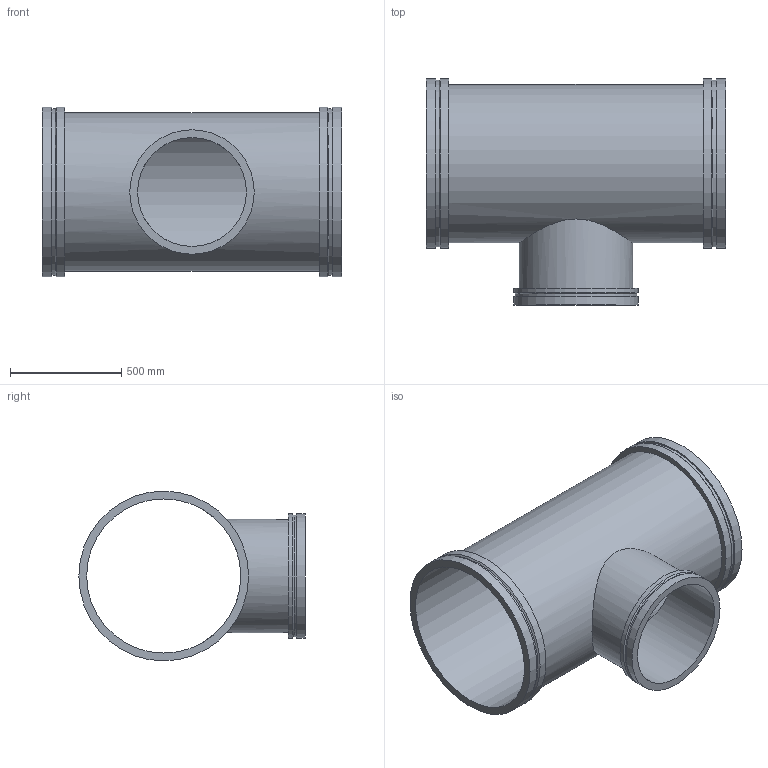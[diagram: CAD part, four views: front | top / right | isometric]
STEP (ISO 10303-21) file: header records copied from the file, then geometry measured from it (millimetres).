
FILE_DESCRIPTION(/* description */ ('VIC REDUCING TEE No W025 VR','CAx-IF Rec.Pracs.---Representation and Presentation of Product Manufacturing Information (PMI)---4.0---2014-10-13'),/* implementation_level */ '2;1');
FILE_NAME(/* name */ 'C:\Users\kkamble\AppData\Roaming\Autodesk\ApplicationPlugins\Back Up\Victaulic_Vic-Ring_Tee Reducing_No W25 VR (AGR)\Victaulic_Vic-Ring_Tee Reducing_No W25 VR (AGR)_28.0x20.0 (700x500).stp',/* time_stamp */ '2020-09-10T11:53:56+05:00',/* author */ ('mchristi'),/* organization */ ('Victaulic'),/* preprocessor_version */ 'ST-DEVELOPER v17.2',/* originating_system */ 'Autodesk Inventor 2019',/* authorisation */ '');
FILE_SCHEMA (('AP242_MANAGED_MODEL_BASED_3D_ENGINEERING_MIM_LF { 1 0 10303 442 1 1 4 }'));
Length unit declared in the file: inch
Products named in the file (1): W25 VR-28.0x20.0
Bounding box: 1346.2 x 1016 x 762 mm (x, y, z)
Volume: 45714996.1 mm3; surface area: 7045180.1 mm2
Topology: 1 solids, 1 shells, 25 faces, 68 edges, 52 vertices
Faces by surface type: cylinder 13, plane 9, cone 3
Full cylindrical faces by diameter (mm): 488.95 x1, 508 x1, 546.1 x1, 558.8 x2, 692.15 x1, 711.2 x1, 747.522 x2, 762 x4
Entity records: 1243 total; most frequent: CARTESIAN_POINT 399, DIRECTION 190, ORIENTED_EDGE 136, AXIS2_PLACEMENT_3D 87, EDGE_CURVE 68, VERTEX_POINT 52, CIRCLE 48, EDGE_LOOP 36
